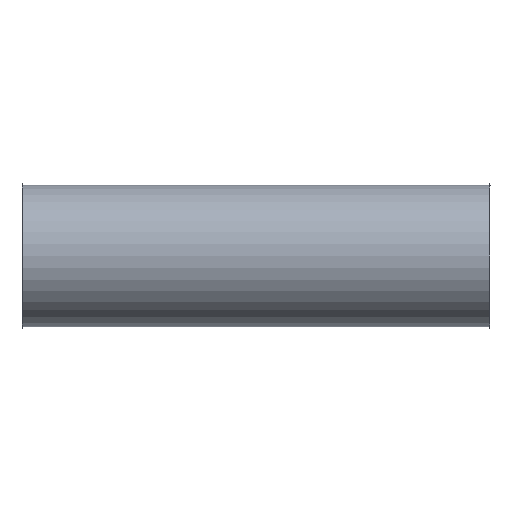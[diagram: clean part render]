
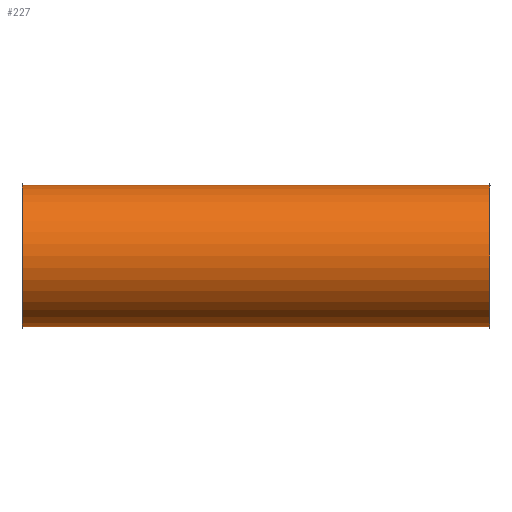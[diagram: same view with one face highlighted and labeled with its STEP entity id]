
A CAD part, front view. The second image highlights one B-rep face of the part: STEP entity #227.
In plain terms, the highlighted cylindrical face has radius 301 mm (diameter 602 mm), a full revolution.
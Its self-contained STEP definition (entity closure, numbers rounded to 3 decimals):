
#112=CARTESIAN_POINT('',(-31.741,2.915,0.0));
#113=VERTEX_POINT('',#112);
#114=CARTESIAN_POINT('',(-31.741,303.915,0.0));
#115=DIRECTION('',(-1.0,0.0,0.0));
#116=DIRECTION('',(0.0,-1.0,0.0));
#117=AXIS2_PLACEMENT_3D('',#114,#115,#116);
#118=CIRCLE('',#117,301.0);
#119=EDGE_CURVE('',#113,#113,#118,.T.);
#204=CARTESIAN_POINT('',(1950.259,2.915,0.0));
#205=VERTEX_POINT('',#204);
#206=CARTESIAN_POINT('',(1950.259,303.915,0.0));
#207=DIRECTION('',(-1.0,0.0,0.0));
#208=DIRECTION('',(0.0,-1.0,0.0));
#209=AXIS2_PLACEMENT_3D('',#206,#207,#208);
#210=CIRCLE('',#209,301.);
#211=EDGE_CURVE('',#205,#205,#210,.T.);
#216=CARTESIAN_POINT('',(959.259,303.915,0.0));
#217=DIRECTION('',(-1.0,0.,0.0));
#218=DIRECTION('',(0.0,-1.0,0.0));
#219=AXIS2_PLACEMENT_3D('',#216,#217,#218);
#220=CYLINDRICAL_SURFACE('',#219,301.);
#221=ORIENTED_EDGE('',*,*,#119,.F.);
#222=EDGE_LOOP('',(#221));
#223=FACE_OUTER_BOUND('',#222,.T.);
#224=ORIENTED_EDGE('',*,*,#211,.T.);
#225=EDGE_LOOP('',(#224));
#226=FACE_BOUND('',#225,.T.);
#227=ADVANCED_FACE('',(#223,#226),#220,.T.);
